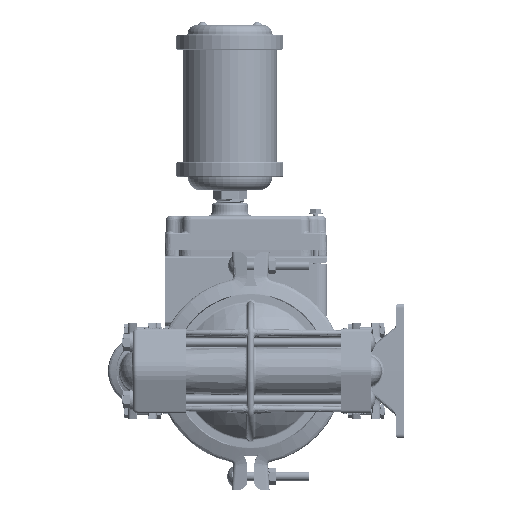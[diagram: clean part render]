
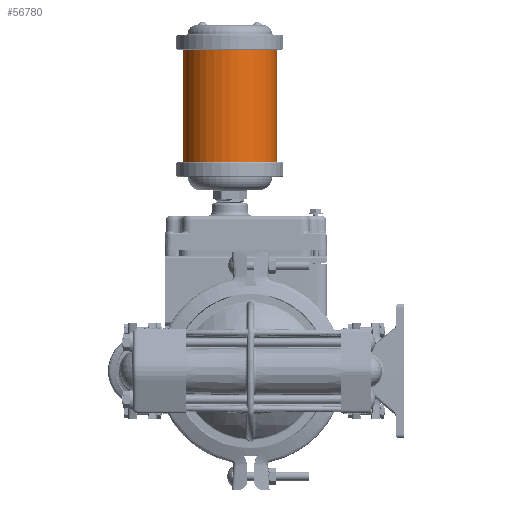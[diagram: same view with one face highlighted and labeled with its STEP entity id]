
A CAD part, left-side view. The second image highlights one B-rep face of the part: STEP entity #56780.
In plain terms, the highlighted cylindrical face has radius 35.56 mm (diameter 71.12 mm), a partial arc.
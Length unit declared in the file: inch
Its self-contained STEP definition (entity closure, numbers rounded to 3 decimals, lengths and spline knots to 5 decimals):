
#2245 = VECTOR ( 'NONE', #7375, 39.37008 ) ;
#7375 = DIRECTION ( 'NONE',  ( 0., 0., 1. ) ) ;
#10529 = DIRECTION ( 'NONE',  ( 0., 1., 0. ) ) ;
#49831 = DIRECTION ( 'NONE',  ( 0., 0., -1. ) ) ;
#50082 = CARTESIAN_POINT ( 'NONE',  ( 0., -0.787, 6.195 ) ) ;
#56780 = ADVANCED_FACE ( 'NONE', ( #518915 ), #521651, .T. ) ;
#60459 = DIRECTION ( 'NONE',  ( 0., 0., -1. ) ) ;
#74449 = EDGE_CURVE ( 'NONE', #412474, #277042, #352197, .T. ) ;
#99011 = LINE ( 'NONE', #179650, #2245 ) ;
#101137 = ORIENTED_EDGE ( 'NONE', *, *, #184310, .T. ) ;
#103576 = EDGE_CURVE ( 'NONE', #412474, #129051, #391410, .T. ) ;
#103767 = AXIS2_PLACEMENT_3D ( 'NONE', #441076, #60459, #10529 ) ;
#109011 = VECTOR ( 'NONE', #130147, 39.37008 ) ;
#127406 = CARTESIAN_POINT ( 'NONE',  ( 0., -0.787, 6.195 ) ) ;
#129051 = VERTEX_POINT ( 'NONE', #302176 ) ;
#130147 = DIRECTION ( 'NONE',  ( 0., 0., 1. ) ) ;
#146906 = CARTESIAN_POINT ( 'NONE',  ( 0., 0.613, 9.534 ) ) ;
#157241 = CARTESIAN_POINT ( 'NONE',  ( 0., -0.787, 9.534 ) ) ;
#179650 = CARTESIAN_POINT ( 'NONE',  ( 0., 2.013, 6.195 ) ) ;
#180246 = AXIS2_PLACEMENT_3D ( 'NONE', #146906, #49831, #438648 ) ;
#184310 = EDGE_CURVE ( 'NONE', #277042, #405319, #322164, .T. ) ;
#199581 = ORIENTED_EDGE ( 'NONE', *, *, #74449, .T. ) ;
#234693 = EDGE_CURVE ( 'NONE', #129051, #405319, #99011, .T. ) ;
#277042 = VERTEX_POINT ( 'NONE', #157241 ) ;
#293826 = AXIS2_PLACEMENT_3D ( 'NONE', #548788, #465392, #379297 ) ;
#302176 = CARTESIAN_POINT ( 'NONE',  ( 0., 2.013, 6.195 ) ) ;
#314545 = EDGE_LOOP ( 'NONE', ( #101137, #477769, #524224, #199581 ) ) ;
#322164 = CIRCLE ( 'NONE', #180246, 1.4 ) ;
#352197 = LINE ( 'NONE', #127406, #109011 ) ;
#379297 = DIRECTION ( 'NONE',  ( 0., -1., 0. ) ) ;
#391410 = CIRCLE ( 'NONE', #293826, 1.4 ) ;
#405319 = VERTEX_POINT ( 'NONE', #492446 ) ;
#412474 = VERTEX_POINT ( 'NONE', #50082 ) ;
#438648 = DIRECTION ( 'NONE',  ( 0., -1., 0. ) ) ;
#441076 = CARTESIAN_POINT ( 'NONE',  ( 0., 0.613, 10.5 ) ) ;
#465392 = DIRECTION ( 'NONE',  ( 0., 0., -1. ) ) ;
#477769 = ORIENTED_EDGE ( 'NONE', *, *, #234693, .F. ) ;
#492446 = CARTESIAN_POINT ( 'NONE',  ( 0., 2.013, 9.534 ) ) ;
#518915 = FACE_OUTER_BOUND ( 'NONE', #314545, .T. ) ;
#521651 = CYLINDRICAL_SURFACE ( 'NONE', #103767, 1.4 ) ;
#524224 = ORIENTED_EDGE ( 'NONE', *, *, #103576, .F. ) ;
#548788 = CARTESIAN_POINT ( 'NONE',  ( 0., 0.613, 6.195 ) ) ;
